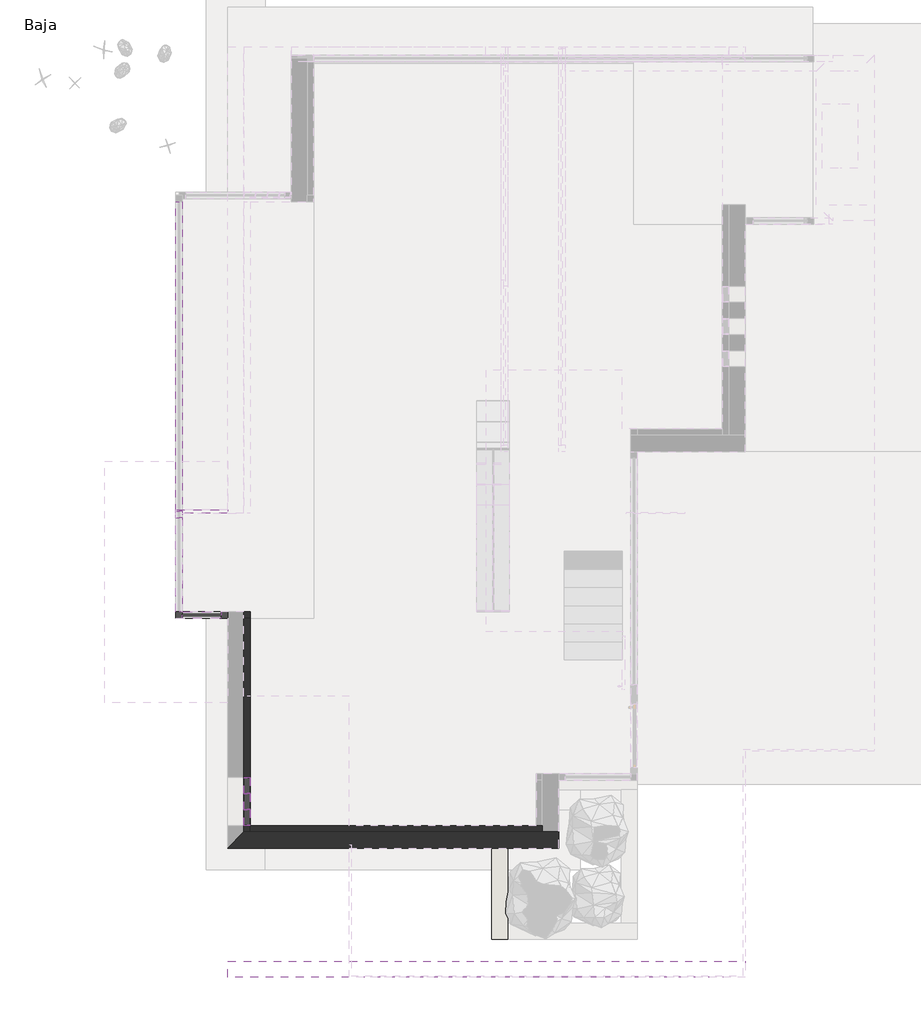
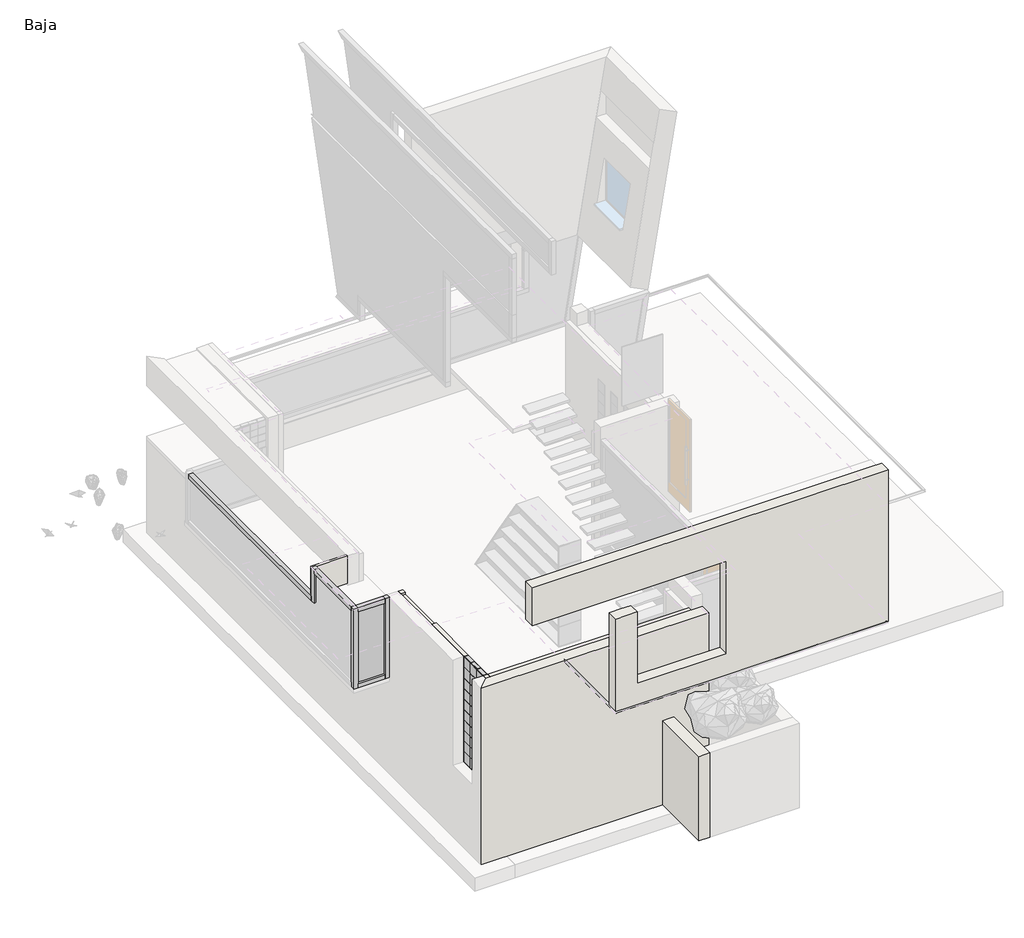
# One storey, part 1 of 7: 80 members, 31 plates, 7 walls.
"""IFC4 building model written with IfcOpenShell, lengths in millimetres."""

from ifc_helpers import new_model, si_unit, frame, origin, place, context, project, spatial, polyline, outline, extrude, faceted_brep, transform, mapped, element, save
from components import member_4f461d74, montante_rectangular_d5d69b61, montante_rectangular_8270ee6e, montante_rectangular_21ec1a72, montante_rectangular_2e25ec90, montante_rectangular_0f009ab3, montante_rectangular_17f9a402, montante_rectangular_e8e7f79d, montante_rectangular_223da8a3, montante_rectangular_ca48c89f, montante_rectangular_montante_rectangular_10_x_10_cm_55ccf2b4, montante_rectangular_montante_rectangular_10_x_10_cm_ffe52684, montante_rectangular_montante_rectangular_10_x_10_cm_fdee114b, montante_rectangular_montante_rectangular_10_x_10_cm_1dd9ad85, montante_rectangular_montante_rectangular_10_x_10_cm_b34eec0c, montante_rectangular_montante_rectangular_10_x_10_cm_8fd7b287, panel_de_sistema_6b14c2df, panel_de_sistema_1f3cf019, panel_de_sistema_2d9dcff1, panel_de_sistema_56062982, panel_de_sistema_acristalado_40b13092

model = new_model("IFC4")

# Units and contexts
model_context = context("Model", 3, world=origin())
ifc_project = project(units=[si_unit("LENGTHUNIT", "METRE", prefix="MILLI")], contexts=[model_context])

# Site, building, storey
site = spatial("IfcSite", under=ifc_project)
building = spatial("IfcBuilding", under=site)
storey = spatial("IfcBuildingStorey", under=building, Name="Baja", Elevation=0.0)

# Members
placement = place(None, origin())
member_shape = member_4f461d74(model_context)
element("IfcMember", 1, ObjectType="Montante angular cuadrilátero : Montante cuadrilátero 1", at=placement, inside=storey, context=model_context, shape_type="MappedRepresentation", body=[
    mapped(member_shape, transform((-4981.0601801, -6788.9241022, 2700.0), x_axis=(-1.0, 0.0, 0.0), y_axis=(0.0, -1.0, 0.0), z_axis=(0.0, 0.0, 1.0))),
])
montante_rectangular_shape = montante_rectangular_d5d69b61(model_context)
element("IfcMember", 2, ObjectType="Montante rectangular : Junta de paves", at=placement, inside=storey, context=model_context, shape_type="MappedRepresentation", body=[
    mapped(montante_rectangular_shape, transform((-3931.0601801, -9297.6669037, 200.0), x_axis=(0.0, 1.0, 0.0), y_axis=(1.0, 0.0, 0.0), z_axis=(0.0, 0.0, -1.0))),
])
element("IfcMember", 3, ObjectType="Montante rectangular : Junta de paves", at=placement, inside=storey, context=model_context, shape_type="MappedRepresentation", body=[
    mapped(montante_rectangular_shape, transform((-3931.0601801, -9297.6669037, 450.0), x_axis=(0.0, 1.0, 0.0), y_axis=(1.0, 0.0, 0.0), z_axis=(0.0, 0.0, -1.0))),
])
element("IfcMember", 4, ObjectType="Montante rectangular : Junta de paves", at=placement, inside=storey, context=model_context, shape_type="MappedRepresentation", body=[
    mapped(montante_rectangular_shape, transform((-3931.0601801, -9297.6669037, 700.0), x_axis=(0.0, 1.0, 0.0), y_axis=(1.0, 0.0, 0.0), z_axis=(0.0, 0.0, -1.0))),
])
element("IfcMember", 5, ObjectType="Montante rectangular : Junta de paves", at=placement, inside=storey, context=model_context, shape_type="MappedRepresentation", body=[
    mapped(montante_rectangular_shape, transform((-3931.0601801, -9297.6669037, 950.0), x_axis=(0.0, 1.0, 0.0), y_axis=(1.0, 0.0, 0.0), z_axis=(0.0, 0.0, -1.0))),
])
element("IfcMember", 6, ObjectType="Montante rectangular : Junta de paves", at=placement, inside=storey, context=model_context, shape_type="MappedRepresentation", body=[
    mapped(montante_rectangular_shape, transform((-3931.0601801, -9297.6669037, 1200.0), x_axis=(0.0, 1.0, 0.0), y_axis=(1.0, 0.0, 0.0), z_axis=(0.0, 0.0, -1.0))),
])
element("IfcMember", 7, ObjectType="Montante rectangular : Junta de paves", at=placement, inside=storey, context=model_context, shape_type="MappedRepresentation", body=[
    mapped(montante_rectangular_shape, transform((-3931.0601801, -9297.6669037, 1450.0), x_axis=(0.0, 1.0, 0.0), y_axis=(1.0, 0.0, 0.0), z_axis=(0.0, 0.0, -1.0))),
])
element("IfcMember", 8, ObjectType="Montante rectangular : Junta de paves", at=placement, inside=storey, context=model_context, shape_type="MappedRepresentation", body=[
    mapped(montante_rectangular_shape, transform((-3931.0601801, -9297.6669037, 1700.0), x_axis=(0.0, 1.0, 0.0), y_axis=(1.0, 0.0, 0.0), z_axis=(0.0, 0.0, -1.0))),
])
element("IfcMember", 9, ObjectType="Montante rectangular : Junta de paves", at=placement, inside=storey, context=model_context, shape_type="MappedRepresentation", body=[
    mapped(montante_rectangular_shape, transform((-3931.0601801, -9297.6669037, 1950.0), x_axis=(0.0, 1.0, 0.0), y_axis=(1.0, 0.0, 0.0), z_axis=(0.0, 0.0, -1.0))),
])
element("IfcMember", 10, ObjectType="Montante rectangular : Junta de paves", at=placement, inside=storey, context=model_context, shape_type="MappedRepresentation", body=[
    mapped(montante_rectangular_shape, transform((-3931.0601801, -9297.6669037, 2200.0), x_axis=(0.0, 1.0, 0.0), y_axis=(1.0, 0.0, 0.0), z_axis=(0.0, 0.0, -1.0))),
])
element("IfcMember", 11, ObjectType="Montante rectangular : Junta de paves", at=placement, inside=storey, context=model_context, shape_type="MappedRepresentation", body=[
    mapped(montante_rectangular_shape, transform((-3931.0601801, -9297.6669037, 2450.0), x_axis=(0.0, 1.0, 0.0), y_axis=(1.0, 0.0, 0.0), z_axis=(0.0, 0.0, -1.0))),
])
montante_rectangular_2_shape = montante_rectangular_8270ee6e(model_context)
element("IfcMember", 12, ObjectType="Montante rectangular : Junta de paves", at=placement, inside=storey, context=model_context, shape_type="MappedRepresentation", body=[
    mapped(montante_rectangular_2_shape, transform((-3931.0601801, -10047.6669037, 2700.0), x_axis=(0.0, -1.0, 0.0), y_axis=(1.0, 0.0, 0.0), z_axis=(0.0, 0.0, 1.0))),
])
element("IfcMember", 13, ObjectType="Montante rectangular : Junta de paves", at=placement, inside=storey, context=model_context, shape_type="MappedRepresentation", body=[
    mapped(montante_rectangular_2_shape, transform((-3931.0601801, -10047.6669037, 450.0), x_axis=(0.0, -1.0, 0.0), y_axis=(1.0, 0.0, 0.0), z_axis=(0.0, 0.0, 1.0))),
])
element("IfcMember", 14, ObjectType="Montante rectangular : Junta de paves", at=placement, inside=storey, context=model_context, shape_type="MappedRepresentation", body=[
    mapped(montante_rectangular_2_shape, transform((-3931.0601801, -10047.6669037, 700.0), x_axis=(0.0, -1.0, 0.0), y_axis=(1.0, 0.0, 0.0), z_axis=(0.0, 0.0, 1.0))),
])
element("IfcMember", 15, ObjectType="Montante rectangular : Junta de paves", at=placement, inside=storey, context=model_context, shape_type="MappedRepresentation", body=[
    mapped(montante_rectangular_2_shape, transform((-3931.0601801, -10047.6669037, 950.0), x_axis=(0.0, -1.0, 0.0), y_axis=(1.0, 0.0, 0.0), z_axis=(0.0, 0.0, 1.0))),
])
element("IfcMember", 16, ObjectType="Montante rectangular : Junta de paves", at=placement, inside=storey, context=model_context, shape_type="MappedRepresentation", body=[
    mapped(montante_rectangular_2_shape, transform((-3931.0601801, -10047.6669037, 1200.0), x_axis=(0.0, -1.0, 0.0), y_axis=(1.0, 0.0, 0.0), z_axis=(0.0, 0.0, 1.0))),
])
element("IfcMember", 17, ObjectType="Montante rectangular : Junta de paves", at=placement, inside=storey, context=model_context, shape_type="MappedRepresentation", body=[
    mapped(montante_rectangular_2_shape, transform((-3931.0601801, -10047.6669037, 1450.0), x_axis=(0.0, -1.0, 0.0), y_axis=(1.0, 0.0, 0.0), z_axis=(0.0, 0.0, 1.0))),
])
element("IfcMember", 18, ObjectType="Montante rectangular : Junta de paves", at=placement, inside=storey, context=model_context, shape_type="MappedRepresentation", body=[
    mapped(montante_rectangular_2_shape, transform((-3931.0601801, -10047.6669037, 1700.0), x_axis=(0.0, -1.0, 0.0), y_axis=(1.0, 0.0, 0.0), z_axis=(0.0, 0.0, 1.0))),
])
element("IfcMember", 19, ObjectType="Montante rectangular : Junta de paves", at=placement, inside=storey, context=model_context, shape_type="MappedRepresentation", body=[
    mapped(montante_rectangular_2_shape, transform((-3931.0601801, -10047.6669037, 1950.0), x_axis=(0.0, -1.0, 0.0), y_axis=(1.0, 0.0, 0.0), z_axis=(0.0, 0.0, 1.0))),
])
element("IfcMember", 20, ObjectType="Montante rectangular : Junta de paves", at=placement, inside=storey, context=model_context, shape_type="MappedRepresentation", body=[
    mapped(montante_rectangular_2_shape, transform((-3931.0601801, -10047.6669037, 2200.0), x_axis=(0.0, -1.0, 0.0), y_axis=(1.0, 0.0, 0.0), z_axis=(0.0, 0.0, 1.0))),
])
element("IfcMember", 21, ObjectType="Montante rectangular : Junta de paves", at=placement, inside=storey, context=model_context, shape_type="MappedRepresentation", body=[
    mapped(montante_rectangular_2_shape, transform((-3931.0601801, -10047.6669037, 2450.0), x_axis=(0.0, -1.0, 0.0), y_axis=(1.0, 0.0, 0.0), z_axis=(0.0, 0.0, 1.0))),
])
montante_rectangular_3_shape = montante_rectangular_21ec1a72(model_context)
element("IfcMember", 22, ObjectType="Montante rectangular : Junta de paves", at=placement, inside=storey, context=model_context, shape_type="MappedRepresentation", body=[
    mapped(montante_rectangular_3_shape, transform((-3931.0601801, -9307.6669037, 2700.0), x_axis=(0.0, 0.0, 1.0), y_axis=(1.0, 0.0, 0.0), z_axis=(0.0, 1.0, 0.0))),
])
element("IfcMember", 23, ObjectType="Montante rectangular : Junta de paves", at=placement, inside=storey, context=model_context, shape_type="MappedRepresentation", body=[
    mapped(montante_rectangular_3_shape, transform((-3931.0601801, -9802.6669037, 2700.0), x_axis=(0.0, 0.0, 1.0), y_axis=(1.0, 0.0, 0.0), z_axis=(0.0, 1.0, 0.0))),
])
montante_rectangular_4_shape = montante_rectangular_2e25ec90(model_context)
element("IfcMember", 24, ObjectType="Montante rectangular : Junta de paves", at=placement, inside=storey, context=model_context, shape_type="MappedRepresentation", body=[
    mapped(montante_rectangular_4_shape, transform((-3931.0601801, -10037.6669037, 200.0), x_axis=(0.0, 0.0, -1.0), y_axis=(1.0, 0.0, 0.0), z_axis=(0.0, -1.0, 0.0))),
])
element("IfcMember", 25, ObjectType="Montante rectangular : Junta de paves", at=placement, inside=storey, context=model_context, shape_type="MappedRepresentation", body=[
    mapped(montante_rectangular_4_shape, transform((-3931.0601801, -9542.6669037, 200.0), x_axis=(0.0, 0.0, -1.0), y_axis=(1.0, 0.0, 0.0), z_axis=(0.0, -1.0, 0.0))),
])
montante_rectangular_5_shape = montante_rectangular_0f009ab3(model_context)
element("IfcMember", 26, ObjectType="Montante rectangular : Junta de paves", at=placement, inside=storey, context=model_context, shape_type="MappedRepresentation", body=[
    mapped(montante_rectangular_5_shape, transform((-3931.0601801, -9802.6669037, 450.0), x_axis=(0.0, 0.0, 1.0), y_axis=(1.0, 0.0, 0.0), z_axis=(0.0, 1.0, 0.0))),
])
element("IfcMember", 27, ObjectType="Montante rectangular : Junta de paves", at=placement, inside=storey, context=model_context, shape_type="MappedRepresentation", body=[
    mapped(montante_rectangular_5_shape, transform((-3931.0601801, -9802.6669037, 700.0), x_axis=(0.0, 0.0, 1.0), y_axis=(1.0, 0.0, 0.0), z_axis=(0.0, 1.0, 0.0))),
])
element("IfcMember", 28, ObjectType="Montante rectangular : Junta de paves", at=placement, inside=storey, context=model_context, shape_type="MappedRepresentation", body=[
    mapped(montante_rectangular_5_shape, transform((-3931.0601801, -9802.6669037, 950.0), x_axis=(0.0, 0.0, 1.0), y_axis=(1.0, 0.0, 0.0), z_axis=(0.0, 1.0, 0.0))),
])
element("IfcMember", 29, ObjectType="Montante rectangular : Junta de paves", at=placement, inside=storey, context=model_context, shape_type="MappedRepresentation", body=[
    mapped(montante_rectangular_5_shape, transform((-3931.0601801, -9802.6669037, 1200.0), x_axis=(0.0, 0.0, 1.0), y_axis=(1.0, 0.0, 0.0), z_axis=(0.0, 1.0, 0.0))),
])
element("IfcMember", 30, ObjectType="Montante rectangular : Junta de paves", at=placement, inside=storey, context=model_context, shape_type="MappedRepresentation", body=[
    mapped(montante_rectangular_5_shape, transform((-3931.0601801, -9802.6669037, 1450.0), x_axis=(0.0, 0.0, 1.0), y_axis=(1.0, 0.0, 0.0), z_axis=(0.0, 1.0, 0.0))),
])
element("IfcMember", 31, ObjectType="Montante rectangular : Junta de paves", at=placement, inside=storey, context=model_context, shape_type="MappedRepresentation", body=[
    mapped(montante_rectangular_5_shape, transform((-3931.0601801, -9802.6669037, 1700.0), x_axis=(0.0, 0.0, 1.0), y_axis=(1.0, 0.0, 0.0), z_axis=(0.0, 1.0, 0.0))),
])
element("IfcMember", 32, ObjectType="Montante rectangular : Junta de paves", at=placement, inside=storey, context=model_context, shape_type="MappedRepresentation", body=[
    mapped(montante_rectangular_5_shape, transform((-3931.0601801, -9802.6669037, 1950.0), x_axis=(0.0, 0.0, 1.0), y_axis=(1.0, 0.0, 0.0), z_axis=(0.0, 1.0, 0.0))),
])
element("IfcMember", 33, ObjectType="Montante rectangular : Junta de paves", at=placement, inside=storey, context=model_context, shape_type="MappedRepresentation", body=[
    mapped(montante_rectangular_5_shape, transform((-3931.0601801, -9307.6669037, 450.0), x_axis=(0.0, 0.0, 1.0), y_axis=(1.0, 0.0, 0.0), z_axis=(0.0, 1.0, 0.0))),
])
element("IfcMember", 34, ObjectType="Montante rectangular : Junta de paves", at=placement, inside=storey, context=model_context, shape_type="MappedRepresentation", body=[
    mapped(montante_rectangular_5_shape, transform((-3931.0601801, -9307.6669037, 700.0), x_axis=(0.0, 0.0, 1.0), y_axis=(1.0, 0.0, 0.0), z_axis=(0.0, 1.0, 0.0))),
])
element("IfcMember", 35, ObjectType="Montante rectangular : Junta de paves", at=placement, inside=storey, context=model_context, shape_type="MappedRepresentation", body=[
    mapped(montante_rectangular_5_shape, transform((-3931.0601801, -9307.6669037, 950.0), x_axis=(0.0, 0.0, 1.0), y_axis=(1.0, 0.0, 0.0), z_axis=(0.0, 1.0, 0.0))),
])
element("IfcMember", 36, ObjectType="Montante rectangular : Junta de paves", at=placement, inside=storey, context=model_context, shape_type="MappedRepresentation", body=[
    mapped(montante_rectangular_5_shape, transform((-3931.0601801, -9307.6669037, 1200.0), x_axis=(0.0, 0.0, 1.0), y_axis=(1.0, 0.0, 0.0), z_axis=(0.0, 1.0, 0.0))),
])
element("IfcMember", 37, ObjectType="Montante rectangular : Junta de paves", at=placement, inside=storey, context=model_context, shape_type="MappedRepresentation", body=[
    mapped(montante_rectangular_5_shape, transform((-3931.0601801, -9307.6669037, 1450.0), x_axis=(0.0, 0.0, 1.0), y_axis=(1.0, 0.0, 0.0), z_axis=(0.0, 1.0, 0.0))),
])
element("IfcMember", 38, ObjectType="Montante rectangular : Junta de paves", at=placement, inside=storey, context=model_context, shape_type="MappedRepresentation", body=[
    mapped(montante_rectangular_5_shape, transform((-3931.0601801, -9307.6669037, 1700.0), x_axis=(0.0, 0.0, 1.0), y_axis=(1.0, 0.0, 0.0), z_axis=(0.0, 1.0, 0.0))),
])
element("IfcMember", 39, ObjectType="Montante rectangular : Junta de paves", at=placement, inside=storey, context=model_context, shape_type="MappedRepresentation", body=[
    mapped(montante_rectangular_5_shape, transform((-3931.0601801, -9307.6669037, 1950.0), x_axis=(0.0, 0.0, 1.0), y_axis=(1.0, 0.0, 0.0), z_axis=(0.0, 1.0, 0.0))),
])
element("IfcMember", 40, ObjectType="Montante rectangular : Junta de paves", at=placement, inside=storey, context=model_context, shape_type="MappedRepresentation", body=[
    mapped(montante_rectangular_5_shape, transform((-3931.0601801, -9802.6669037, 2200.0), x_axis=(0.0, 0.0, 1.0), y_axis=(1.0, 0.0, 0.0), z_axis=(0.0, 1.0, 0.0))),
])
element("IfcMember", 41, ObjectType="Montante rectangular : Junta de paves", at=placement, inside=storey, context=model_context, shape_type="MappedRepresentation", body=[
    mapped(montante_rectangular_5_shape, transform((-3931.0601801, -9307.6669037, 2200.0), x_axis=(0.0, 0.0, 1.0), y_axis=(1.0, 0.0, 0.0), z_axis=(0.0, 1.0, 0.0))),
])
element("IfcMember", 42, ObjectType="Montante rectangular : Junta de paves", at=placement, inside=storey, context=model_context, shape_type="MappedRepresentation", body=[
    mapped(montante_rectangular_5_shape, transform((-3931.0601801, -9802.6669037, 2450.0), x_axis=(0.0, 0.0, 1.0), y_axis=(1.0, 0.0, 0.0), z_axis=(0.0, 1.0, 0.0))),
])
element("IfcMember", 43, ObjectType="Montante rectangular : Junta de paves", at=placement, inside=storey, context=model_context, shape_type="MappedRepresentation", body=[
    mapped(montante_rectangular_5_shape, transform((-3931.0601801, -9307.6669037, 2450.0), x_axis=(0.0, 0.0, 1.0), y_axis=(1.0, 0.0, 0.0), z_axis=(0.0, 1.0, 0.0))),
])
montante_rectangular_6_shape = montante_rectangular_17f9a402(model_context)
element("IfcMember", 44, ObjectType="Montante rectangular : Junta de paves", at=placement, inside=storey, context=model_context, shape_type="MappedRepresentation", body=[
    mapped(montante_rectangular_6_shape, transform((-3931.0601801, -9797.6669037, 200.0), x_axis=(0.0, 1.0, 0.0), y_axis=(1.0, 0.0, 0.0), z_axis=(0.0, 0.0, -1.0))),
])
element("IfcMember", 45, ObjectType="Montante rectangular : Junta de paves", at=placement, inside=storey, context=model_context, shape_type="MappedRepresentation", body=[
    mapped(montante_rectangular_6_shape, transform((-3931.0601801, -9547.6669037, 200.0), x_axis=(0.0, 1.0, 0.0), y_axis=(1.0, 0.0, 0.0), z_axis=(0.0, 0.0, -1.0))),
])
element("IfcMember", 46, ObjectType="Montante rectangular : Junta de paves", at=placement, inside=storey, context=model_context, shape_type="MappedRepresentation", body=[
    mapped(montante_rectangular_6_shape, transform((-3931.0601801, -9797.6669037, 450.0), x_axis=(0.0, 1.0, 0.0), y_axis=(1.0, 0.0, 0.0), z_axis=(0.0, 0.0, -1.0))),
])
element("IfcMember", 47, ObjectType="Montante rectangular : Junta de paves", at=placement, inside=storey, context=model_context, shape_type="MappedRepresentation", body=[
    mapped(montante_rectangular_6_shape, transform((-3931.0601801, -9797.6669037, 700.0), x_axis=(0.0, 1.0, 0.0), y_axis=(1.0, 0.0, 0.0), z_axis=(0.0, 0.0, -1.0))),
])
element("IfcMember", 48, ObjectType="Montante rectangular : Junta de paves", at=placement, inside=storey, context=model_context, shape_type="MappedRepresentation", body=[
    mapped(montante_rectangular_6_shape, transform((-3931.0601801, -9797.6669037, 950.0), x_axis=(0.0, 1.0, 0.0), y_axis=(1.0, 0.0, 0.0), z_axis=(0.0, 0.0, -1.0))),
])
element("IfcMember", 49, ObjectType="Montante rectangular : Junta de paves", at=placement, inside=storey, context=model_context, shape_type="MappedRepresentation", body=[
    mapped(montante_rectangular_6_shape, transform((-3931.0601801, -9797.6669037, 1200.0), x_axis=(0.0, 1.0, 0.0), y_axis=(1.0, 0.0, 0.0), z_axis=(0.0, 0.0, -1.0))),
])
element("IfcMember", 50, ObjectType="Montante rectangular : Junta de paves", at=placement, inside=storey, context=model_context, shape_type="MappedRepresentation", body=[
    mapped(montante_rectangular_6_shape, transform((-3931.0601801, -9797.6669037, 1450.0), x_axis=(0.0, 1.0, 0.0), y_axis=(1.0, 0.0, 0.0), z_axis=(0.0, 0.0, -1.0))),
])
element("IfcMember", 51, ObjectType="Montante rectangular : Junta de paves", at=placement, inside=storey, context=model_context, shape_type="MappedRepresentation", body=[
    mapped(montante_rectangular_6_shape, transform((-3931.0601801, -9797.6669037, 1700.0), x_axis=(0.0, 1.0, 0.0), y_axis=(1.0, 0.0, 0.0), z_axis=(0.0, 0.0, -1.0))),
])
element("IfcMember", 52, ObjectType="Montante rectangular : Junta de paves", at=placement, inside=storey, context=model_context, shape_type="MappedRepresentation", body=[
    mapped(montante_rectangular_6_shape, transform((-3931.0601801, -9797.6669037, 1950.0), x_axis=(0.0, 1.0, 0.0), y_axis=(1.0, 0.0, 0.0), z_axis=(0.0, 0.0, -1.0))),
])
element("IfcMember", 53, ObjectType="Montante rectangular : Junta de paves", at=placement, inside=storey, context=model_context, shape_type="MappedRepresentation", body=[
    mapped(montante_rectangular_6_shape, transform((-3931.0601801, -9547.6669037, 450.0), x_axis=(0.0, 1.0, 0.0), y_axis=(1.0, 0.0, 0.0), z_axis=(0.0, 0.0, -1.0))),
])
element("IfcMember", 54, ObjectType="Montante rectangular : Junta de paves", at=placement, inside=storey, context=model_context, shape_type="MappedRepresentation", body=[
    mapped(montante_rectangular_6_shape, transform((-3931.0601801, -9547.6669037, 700.0), x_axis=(0.0, 1.0, 0.0), y_axis=(1.0, 0.0, 0.0), z_axis=(0.0, 0.0, -1.0))),
])
element("IfcMember", 55, ObjectType="Montante rectangular : Junta de paves", at=placement, inside=storey, context=model_context, shape_type="MappedRepresentation", body=[
    mapped(montante_rectangular_6_shape, transform((-3931.0601801, -9547.6669037, 950.0), x_axis=(0.0, 1.0, 0.0), y_axis=(1.0, 0.0, 0.0), z_axis=(0.0, 0.0, -1.0))),
])
element("IfcMember", 56, ObjectType="Montante rectangular : Junta de paves", at=placement, inside=storey, context=model_context, shape_type="MappedRepresentation", body=[
    mapped(montante_rectangular_6_shape, transform((-3931.0601801, -9547.6669037, 1200.0), x_axis=(0.0, 1.0, 0.0), y_axis=(1.0, 0.0, 0.0), z_axis=(0.0, 0.0, -1.0))),
])
element("IfcMember", 57, ObjectType="Montante rectangular : Junta de paves", at=placement, inside=storey, context=model_context, shape_type="MappedRepresentation", body=[
    mapped(montante_rectangular_6_shape, transform((-3931.0601801, -9547.6669037, 1450.0), x_axis=(0.0, 1.0, 0.0), y_axis=(1.0, 0.0, 0.0), z_axis=(0.0, 0.0, -1.0))),
])
element("IfcMember", 58, ObjectType="Montante rectangular : Junta de paves", at=placement, inside=storey, context=model_context, shape_type="MappedRepresentation", body=[
    mapped(montante_rectangular_6_shape, transform((-3931.0601801, -9547.6669037, 1700.0), x_axis=(0.0, 1.0, 0.0), y_axis=(1.0, 0.0, 0.0), z_axis=(0.0, 0.0, -1.0))),
])
element("IfcMember", 59, ObjectType="Montante rectangular : Junta de paves", at=placement, inside=storey, context=model_context, shape_type="MappedRepresentation", body=[
    mapped(montante_rectangular_6_shape, transform((-3931.0601801, -9547.6669037, 1950.0), x_axis=(0.0, 1.0, 0.0), y_axis=(1.0, 0.0, 0.0), z_axis=(0.0, 0.0, -1.0))),
])
element("IfcMember", 60, ObjectType="Montante rectangular : Junta de paves", at=placement, inside=storey, context=model_context, shape_type="MappedRepresentation", body=[
    mapped(montante_rectangular_6_shape, transform((-3931.0601801, -9797.6669037, 2200.0), x_axis=(0.0, 1.0, 0.0), y_axis=(1.0, 0.0, 0.0), z_axis=(0.0, 0.0, -1.0))),
])
element("IfcMember", 61, ObjectType="Montante rectangular : Junta de paves", at=placement, inside=storey, context=model_context, shape_type="MappedRepresentation", body=[
    mapped(montante_rectangular_6_shape, transform((-3931.0601801, -9547.6669037, 2200.0), x_axis=(0.0, 1.0, 0.0), y_axis=(1.0, 0.0, 0.0), z_axis=(0.0, 0.0, -1.0))),
])
element("IfcMember", 62, ObjectType="Montante rectangular : Junta de paves", at=placement, inside=storey, context=model_context, shape_type="MappedRepresentation", body=[
    mapped(montante_rectangular_6_shape, transform((-3931.0601801, -9797.6669037, 2450.0), x_axis=(0.0, 1.0, 0.0), y_axis=(1.0, 0.0, 0.0), z_axis=(0.0, 0.0, -1.0))),
])
element("IfcMember", 63, ObjectType="Montante rectangular : Junta de paves", at=placement, inside=storey, context=model_context, shape_type="MappedRepresentation", body=[
    mapped(montante_rectangular_6_shape, transform((-3931.0601801, -9547.6669037, 2450.0), x_axis=(0.0, 1.0, 0.0), y_axis=(1.0, 0.0, 0.0), z_axis=(0.0, 0.0, -1.0))),
])
montante_rectangular_7_shape = montante_rectangular_e8e7f79d(model_context)
element("IfcMember", 64, ObjectType="Montante rectangular : Junta de paves", at=placement, inside=storey, context=model_context, shape_type="MappedRepresentation", body=[
    mapped(montante_rectangular_7_shape, transform((-3931.0601801, -9792.6669037, 200.0), x_axis=(0.0, 0.0, -1.0), y_axis=(1.0, 0.0, 0.0), z_axis=(0.0, -1.0, 0.0))),
])
montante_rectangular_8_shape = montante_rectangular_223da8a3(model_context)
element("IfcMember", 65, ObjectType="Montante rectangular : Junta de paves", at=placement, inside=storey, context=model_context, shape_type="MappedRepresentation", body=[
    mapped(montante_rectangular_8_shape, transform((-3931.0601801, -9552.6669037, 450.0), x_axis=(0.0, 0.0, 1.0), y_axis=(1.0, 0.0, 0.0), z_axis=(0.0, 1.0, 0.0))),
])
element("IfcMember", 66, ObjectType="Montante rectangular : Junta de paves", at=placement, inside=storey, context=model_context, shape_type="MappedRepresentation", body=[
    mapped(montante_rectangular_8_shape, transform((-3931.0601801, -9552.6669037, 700.0), x_axis=(0.0, 0.0, 1.0), y_axis=(1.0, 0.0, 0.0), z_axis=(0.0, 1.0, 0.0))),
])
element("IfcMember", 67, ObjectType="Montante rectangular : Junta de paves", at=placement, inside=storey, context=model_context, shape_type="MappedRepresentation", body=[
    mapped(montante_rectangular_8_shape, transform((-3931.0601801, -9552.6669037, 950.0), x_axis=(0.0, 0.0, 1.0), y_axis=(1.0, 0.0, 0.0), z_axis=(0.0, 1.0, 0.0))),
])
element("IfcMember", 68, ObjectType="Montante rectangular : Junta de paves", at=placement, inside=storey, context=model_context, shape_type="MappedRepresentation", body=[
    mapped(montante_rectangular_8_shape, transform((-3931.0601801, -9552.6669037, 1200.0), x_axis=(0.0, 0.0, 1.0), y_axis=(1.0, 0.0, 0.0), z_axis=(0.0, 1.0, 0.0))),
])
element("IfcMember", 69, ObjectType="Montante rectangular : Junta de paves", at=placement, inside=storey, context=model_context, shape_type="MappedRepresentation", body=[
    mapped(montante_rectangular_8_shape, transform((-3931.0601801, -9552.6669037, 1450.0), x_axis=(0.0, 0.0, 1.0), y_axis=(1.0, 0.0, 0.0), z_axis=(0.0, 1.0, 0.0))),
])
element("IfcMember", 70, ObjectType="Montante rectangular : Junta de paves", at=placement, inside=storey, context=model_context, shape_type="MappedRepresentation", body=[
    mapped(montante_rectangular_8_shape, transform((-3931.0601801, -9552.6669037, 1700.0), x_axis=(0.0, 0.0, 1.0), y_axis=(1.0, 0.0, 0.0), z_axis=(0.0, 1.0, 0.0))),
])
element("IfcMember", 71, ObjectType="Montante rectangular : Junta de paves", at=placement, inside=storey, context=model_context, shape_type="MappedRepresentation", body=[
    mapped(montante_rectangular_8_shape, transform((-3931.0601801, -9552.6669037, 1950.0), x_axis=(0.0, 0.0, 1.0), y_axis=(1.0, 0.0, 0.0), z_axis=(0.0, 1.0, 0.0))),
])
element("IfcMember", 72, ObjectType="Montante rectangular : Junta de paves", at=placement, inside=storey, context=model_context, shape_type="MappedRepresentation", body=[
    mapped(montante_rectangular_8_shape, transform((-3931.0601801, -9552.6669037, 2200.0), x_axis=(0.0, 0.0, 1.0), y_axis=(1.0, 0.0, 0.0), z_axis=(0.0, 1.0, 0.0))),
])
element("IfcMember", 73, ObjectType="Montante rectangular : Junta de paves", at=placement, inside=storey, context=model_context, shape_type="MappedRepresentation", body=[
    mapped(montante_rectangular_8_shape, transform((-3931.0601801, -9552.6669037, 2450.0), x_axis=(0.0, 0.0, 1.0), y_axis=(1.0, 0.0, 0.0), z_axis=(0.0, 1.0, 0.0))),
])
montante_rectangular_9_shape = montante_rectangular_ca48c89f(model_context)
element("IfcMember", 74, ObjectType="Montante rectangular : Junta de paves", at=placement, inside=storey, context=model_context, shape_type="MappedRepresentation", body=[
    mapped(montante_rectangular_9_shape, transform((-3931.0601801, -9552.6669037, 2700.0), x_axis=(0.0, 0.0, 1.0), y_axis=(1.0, 0.0, 0.0), z_axis=(0.0, 1.0, 0.0))),
])
montante_rectangular_montante_rectangular_10_x_10_cm_shape = montante_rectangular_montante_rectangular_10_x_10_cm_55ccf2b4(model_context)
element("IfcMember", 75, ObjectType="Montante rectangular : Montante rectangular - 10 x 10 cm", at=placement, inside=storey, context=model_context, shape_type="MappedRepresentation", body=[
    mapped(montante_rectangular_montante_rectangular_10_x_10_cm_shape, transform((-4931.0601801, -6788.9241022, 800.0), x_axis=(0.0, 0.0, -1.0), y_axis=(0.0, -1.0, 0.0), z_axis=(-1.0, 0.0, 0.0))),
])
montante_rectangular_montante_rectangular_10_x_10_cm_2_shape = montante_rectangular_montante_rectangular_10_x_10_cm_ffe52684(model_context)
element("IfcMember", 76, ObjectType="Montante rectangular : Montante rectangular - 10 x 10 cm", at=placement, inside=storey, context=model_context, shape_type="MappedRepresentation", body=[
    mapped(montante_rectangular_montante_rectangular_10_x_10_cm_2_shape, transform((-4981.0601801, -5187.6669037, 2000.0), x_axis=(0.0, 0.0, 1.0), y_axis=(-1.0, 0.0, 0.0), z_axis=(0.0, -1.0, 0.0))),
])
montante_rectangular_montante_rectangular_10_x_10_cm_3_shape = montante_rectangular_montante_rectangular_10_x_10_cm_fdee114b(model_context)
element("IfcMember", 77, ObjectType="Montante rectangular : Montante rectangular - 10 x 10 cm", at=placement, inside=storey, context=model_context, shape_type="MappedRepresentation", body=[
    mapped(montante_rectangular_montante_rectangular_10_x_10_cm_3_shape, transform((-4981.0601801, -6738.9241022, 2700.0), x_axis=(0.0, 0.0, 1.0), y_axis=(-1.0, 0.0, 0.0), z_axis=(0.0, -1.0, 0.0))),
])
montante_rectangular_montante_rectangular_10_x_10_cm_4_shape = montante_rectangular_montante_rectangular_10_x_10_cm_1dd9ad85(model_context)
element("IfcMember", 78, ObjectType="Montante rectangular : Montante rectangular - 10 x 10 cm", at=placement, inside=storey, context=model_context, shape_type="MappedRepresentation", body=[
    mapped(montante_rectangular_montante_rectangular_10_x_10_cm_4_shape, transform((-4331.0601801, -6788.9241022, 2700.0), x_axis=(0.0, 0.0, 1.0), y_axis=(0.0, -1.0, 0.0), z_axis=(1.0, 0.0, 0.0))),
])
montante_rectangular_montante_rectangular_10_x_10_cm_5_shape = montante_rectangular_montante_rectangular_10_x_10_cm_b34eec0c(model_context)
element("IfcMember", 79, ObjectType="Montante rectangular : Montante rectangular - 10 x 10 cm", at=placement, inside=storey, context=model_context, shape_type="MappedRepresentation", body=[
    mapped(montante_rectangular_montante_rectangular_10_x_10_cm_5_shape, transform((-4981.0601801, -5187.6669037, 2700.0), x_axis=(0.0, 1.0, 0.0), y_axis=(-1.0, 0.0, 0.0), z_axis=(0.0, 0.0, 1.0))),
])
montante_rectangular_montante_rectangular_10_x_10_cm_6_shape = montante_rectangular_montante_rectangular_10_x_10_cm_8fd7b287(model_context)
element("IfcMember", 80, ObjectType="Montante rectangular : Montante rectangular - 10 x 10 cm", at=placement, inside=storey, context=model_context, shape_type="MappedRepresentation", body=[
    mapped(montante_rectangular_montante_rectangular_10_x_10_cm_6_shape, transform((-4231.0601801, -6788.9241022, 800.0), x_axis=(1.0, 0.0, 0.0), y_axis=(0.0, -1.0, 0.0), z_axis=(0.0, 0.0, -1.0))),
])

# Plates
panel_de_sistema_shape = panel_de_sistema_6b14c2df(model_context)
element("IfcPlate", 81, ObjectType="Panel de sistema : PAVES", at=placement, inside=storey, context=model_context, shape_type="MappedRepresentation", body=[
    mapped(panel_de_sistema_shape, transform((-3931.0601801, -9920.1669037, 210.0), x_axis=(0.0, 1.0, 0.0), y_axis=(-1.0, 0.0, 0.0), z_axis=(0.0, 0.0, 1.0))),
])
element("IfcPlate", 82, ObjectType="Panel de sistema : PAVES", at=placement, inside=storey, context=model_context, shape_type="MappedRepresentation", body=[
    mapped(panel_de_sistema_shape, transform((-3931.0601801, -9425.1669037, 210.0), x_axis=(0.0, 1.0, 0.0), y_axis=(-1.0, 0.0, 0.0), z_axis=(0.0, 0.0, 1.0))),
])
element("IfcPlate", 83, ObjectType="Panel de sistema : PAVES", at=placement, inside=storey, context=model_context, shape_type="MappedRepresentation", body=[
    mapped(panel_de_sistema_shape, transform((-3931.0601801, -9920.1669037, 2455.0), x_axis=(0.0, 1.0, 0.0), y_axis=(-1.0, 0.0, 0.0), z_axis=(0.0, 0.0, 1.0))),
])
element("IfcPlate", 84, ObjectType="Panel de sistema : PAVES", at=placement, inside=storey, context=model_context, shape_type="MappedRepresentation", body=[
    mapped(panel_de_sistema_shape, transform((-3931.0601801, -9425.1669037, 2455.0), x_axis=(0.0, 1.0, 0.0), y_axis=(-1.0, 0.0, 0.0), z_axis=(0.0, 0.0, 1.0))),
])
panel_de_sistema_2_shape = panel_de_sistema_1f3cf019(model_context)
element("IfcPlate", 85, ObjectType="Panel de sistema : PAVES", at=placement, inside=storey, context=model_context, shape_type="MappedRepresentation", body=[
    mapped(panel_de_sistema_2_shape, transform((-3931.0601801, -9920.1669037, 455.0), x_axis=(0.0, 1.0, 0.0), y_axis=(-1.0, 0.0, 0.0), z_axis=(0.0, 0.0, 1.0))),
])
element("IfcPlate", 86, ObjectType="Panel de sistema : PAVES", at=placement, inside=storey, context=model_context, shape_type="MappedRepresentation", body=[
    mapped(panel_de_sistema_2_shape, transform((-3931.0601801, -9920.1669037, 705.0), x_axis=(0.0, 1.0, 0.0), y_axis=(-1.0, 0.0, 0.0), z_axis=(0.0, 0.0, 1.0))),
])
element("IfcPlate", 87, ObjectType="Panel de sistema : PAVES", at=placement, inside=storey, context=model_context, shape_type="MappedRepresentation", body=[
    mapped(panel_de_sistema_2_shape, transform((-3931.0601801, -9920.1669037, 955.0), x_axis=(0.0, 1.0, 0.0), y_axis=(-1.0, 0.0, 0.0), z_axis=(0.0, 0.0, 1.0))),
])
element("IfcPlate", 88, ObjectType="Panel de sistema : PAVES", at=placement, inside=storey, context=model_context, shape_type="MappedRepresentation", body=[
    mapped(panel_de_sistema_2_shape, transform((-3931.0601801, -9920.1669037, 1205.0), x_axis=(0.0, 1.0, 0.0), y_axis=(-1.0, 0.0, 0.0), z_axis=(0.0, 0.0, 1.0))),
])
element("IfcPlate", 89, ObjectType="Panel de sistema : PAVES", at=placement, inside=storey, context=model_context, shape_type="MappedRepresentation", body=[
    mapped(panel_de_sistema_2_shape, transform((-3931.0601801, -9920.1669037, 1455.0), x_axis=(0.0, 1.0, 0.0), y_axis=(-1.0, 0.0, 0.0), z_axis=(0.0, 0.0, 1.0))),
])
element("IfcPlate", 90, ObjectType="Panel de sistema : PAVES", at=placement, inside=storey, context=model_context, shape_type="MappedRepresentation", body=[
    mapped(panel_de_sistema_2_shape, transform((-3931.0601801, -9920.1669037, 1705.0), x_axis=(0.0, 1.0, 0.0), y_axis=(-1.0, 0.0, 0.0), z_axis=(0.0, 0.0, 1.0))),
])
element("IfcPlate", 91, ObjectType="Panel de sistema : PAVES", at=placement, inside=storey, context=model_context, shape_type="MappedRepresentation", body=[
    mapped(panel_de_sistema_2_shape, transform((-3931.0601801, -9920.1669037, 1955.0), x_axis=(0.0, 1.0, 0.0), y_axis=(-1.0, 0.0, 0.0), z_axis=(0.0, 0.0, 1.0))),
])
element("IfcPlate", 92, ObjectType="Panel de sistema : PAVES", at=placement, inside=storey, context=model_context, shape_type="MappedRepresentation", body=[
    mapped(panel_de_sistema_2_shape, transform((-3931.0601801, -9425.1669037, 455.0), x_axis=(0.0, 1.0, 0.0), y_axis=(-1.0, 0.0, 0.0), z_axis=(0.0, 0.0, 1.0))),
])
element("IfcPlate", 93, ObjectType="Panel de sistema : PAVES", at=placement, inside=storey, context=model_context, shape_type="MappedRepresentation", body=[
    mapped(panel_de_sistema_2_shape, transform((-3931.0601801, -9425.1669037, 705.0), x_axis=(0.0, 1.0, 0.0), y_axis=(-1.0, 0.0, 0.0), z_axis=(0.0, 0.0, 1.0))),
])
element("IfcPlate", 94, ObjectType="Panel de sistema : PAVES", at=placement, inside=storey, context=model_context, shape_type="MappedRepresentation", body=[
    mapped(panel_de_sistema_2_shape, transform((-3931.0601801, -9425.1669037, 955.0), x_axis=(0.0, 1.0, 0.0), y_axis=(-1.0, 0.0, 0.0), z_axis=(0.0, 0.0, 1.0))),
])
element("IfcPlate", 95, ObjectType="Panel de sistema : PAVES", at=placement, inside=storey, context=model_context, shape_type="MappedRepresentation", body=[
    mapped(panel_de_sistema_2_shape, transform((-3931.0601801, -9425.1669037, 1205.0), x_axis=(0.0, 1.0, 0.0), y_axis=(-1.0, 0.0, 0.0), z_axis=(0.0, 0.0, 1.0))),
])
element("IfcPlate", 96, ObjectType="Panel de sistema : PAVES", at=placement, inside=storey, context=model_context, shape_type="MappedRepresentation", body=[
    mapped(panel_de_sistema_2_shape, transform((-3931.0601801, -9425.1669037, 1455.0), x_axis=(0.0, 1.0, 0.0), y_axis=(-1.0, 0.0, 0.0), z_axis=(0.0, 0.0, 1.0))),
])
element("IfcPlate", 97, ObjectType="Panel de sistema : PAVES", at=placement, inside=storey, context=model_context, shape_type="MappedRepresentation", body=[
    mapped(panel_de_sistema_2_shape, transform((-3931.0601801, -9425.1669037, 1705.0), x_axis=(0.0, 1.0, 0.0), y_axis=(-1.0, 0.0, 0.0), z_axis=(0.0, 0.0, 1.0))),
])
element("IfcPlate", 98, ObjectType="Panel de sistema : PAVES", at=placement, inside=storey, context=model_context, shape_type="MappedRepresentation", body=[
    mapped(panel_de_sistema_2_shape, transform((-3931.0601801, -9425.1669037, 1955.0), x_axis=(0.0, 1.0, 0.0), y_axis=(-1.0, 0.0, 0.0), z_axis=(0.0, 0.0, 1.0))),
])
element("IfcPlate", 99, ObjectType="Panel de sistema : PAVES", at=placement, inside=storey, context=model_context, shape_type="MappedRepresentation", body=[
    mapped(panel_de_sistema_2_shape, transform((-3931.0601801, -9920.1669037, 2205.0), x_axis=(0.0, 1.0, 0.0), y_axis=(-1.0, 0.0, 0.0), z_axis=(0.0, 0.0, 1.0))),
])
element("IfcPlate", 100, ObjectType="Panel de sistema : PAVES", at=placement, inside=storey, context=model_context, shape_type="MappedRepresentation", body=[
    mapped(panel_de_sistema_2_shape, transform((-3931.0601801, -9425.1669037, 2205.0), x_axis=(0.0, 1.0, 0.0), y_axis=(-1.0, 0.0, 0.0), z_axis=(0.0, 0.0, 1.0))),
])
panel_de_sistema_3_shape = panel_de_sistema_2d9dcff1(model_context)
element("IfcPlate", 101, ObjectType="Panel de sistema : PAVES", at=placement, inside=storey, context=model_context, shape_type="MappedRepresentation", body=[
    mapped(panel_de_sistema_3_shape, transform((-3931.0601801, -9672.6669037, 210.0), x_axis=(0.0, 1.0, 0.0), y_axis=(-1.0, 0.0, 0.0), z_axis=(0.0, 0.0, 1.0))),
])
element("IfcPlate", 102, ObjectType="Panel de sistema : PAVES", at=placement, inside=storey, context=model_context, shape_type="MappedRepresentation", body=[
    mapped(panel_de_sistema_3_shape, transform((-3931.0601801, -9672.6669037, 2455.0), x_axis=(0.0, 1.0, 0.0), y_axis=(-1.0, 0.0, 0.0), z_axis=(0.0, 0.0, 1.0))),
])
panel_de_sistema_4_shape = panel_de_sistema_56062982(model_context)
element("IfcPlate", 103, ObjectType="Panel de sistema : PAVES", at=placement, inside=storey, context=model_context, shape_type="MappedRepresentation", body=[
    mapped(panel_de_sistema_4_shape, transform((-3931.0601801, -9672.6669037, 455.0), x_axis=(0.0, 1.0, 0.0), y_axis=(-1.0, 0.0, 0.0), z_axis=(0.0, 0.0, 1.0))),
])
element("IfcPlate", 104, ObjectType="Panel de sistema : PAVES", at=placement, inside=storey, context=model_context, shape_type="MappedRepresentation", body=[
    mapped(panel_de_sistema_4_shape, transform((-3931.0601801, -9672.6669037, 705.0), x_axis=(0.0, 1.0, 0.0), y_axis=(-1.0, 0.0, 0.0), z_axis=(0.0, 0.0, 1.0))),
])
element("IfcPlate", 105, ObjectType="Panel de sistema : PAVES", at=placement, inside=storey, context=model_context, shape_type="MappedRepresentation", body=[
    mapped(panel_de_sistema_4_shape, transform((-3931.0601801, -9672.6669037, 955.0), x_axis=(0.0, 1.0, 0.0), y_axis=(-1.0, 0.0, 0.0), z_axis=(0.0, 0.0, 1.0))),
])
element("IfcPlate", 106, ObjectType="Panel de sistema : PAVES", at=placement, inside=storey, context=model_context, shape_type="MappedRepresentation", body=[
    mapped(panel_de_sistema_4_shape, transform((-3931.0601801, -9672.6669037, 1205.0), x_axis=(0.0, 1.0, 0.0), y_axis=(-1.0, 0.0, 0.0), z_axis=(0.0, 0.0, 1.0))),
])
element("IfcPlate", 107, ObjectType="Panel de sistema : PAVES", at=placement, inside=storey, context=model_context, shape_type="MappedRepresentation", body=[
    mapped(panel_de_sistema_4_shape, transform((-3931.0601801, -9672.6669037, 1455.0), x_axis=(0.0, 1.0, 0.0), y_axis=(-1.0, 0.0, 0.0), z_axis=(0.0, 0.0, 1.0))),
])
element("IfcPlate", 108, ObjectType="Panel de sistema : PAVES", at=placement, inside=storey, context=model_context, shape_type="MappedRepresentation", body=[
    mapped(panel_de_sistema_4_shape, transform((-3931.0601801, -9672.6669037, 1705.0), x_axis=(0.0, 1.0, 0.0), y_axis=(-1.0, 0.0, 0.0), z_axis=(0.0, 0.0, 1.0))),
])
element("IfcPlate", 109, ObjectType="Panel de sistema : PAVES", at=placement, inside=storey, context=model_context, shape_type="MappedRepresentation", body=[
    mapped(panel_de_sistema_4_shape, transform((-3931.0601801, -9672.6669037, 1955.0), x_axis=(0.0, 1.0, 0.0), y_axis=(-1.0, 0.0, 0.0), z_axis=(0.0, 0.0, 1.0))),
])
element("IfcPlate", 110, ObjectType="Panel de sistema : PAVES", at=placement, inside=storey, context=model_context, shape_type="MappedRepresentation", body=[
    mapped(panel_de_sistema_4_shape, transform((-3931.0601801, -9672.6669037, 2205.0), x_axis=(0.0, 1.0, 0.0), y_axis=(-1.0, 0.0, 0.0), z_axis=(0.0, 0.0, 1.0))),
])
panel_de_sistema_acristalado_shape = panel_de_sistema_acristalado_40b13092(model_context)
element("IfcPlate", 111, ObjectType="Panel de sistema : Acristalado", at=placement, inside=storey, context=model_context, shape_type="MappedRepresentation", body=[
    mapped(panel_de_sistema_acristalado_shape, transform((-4631.0601801, -6788.9241022, 900.0), x_axis=(1.0, 0.0, 0.0), y_axis=(0.0, 1.0, 0.0), z_axis=(0.0, 0.0, 1.0))),
])

# Walls
element("IfcWall", 112, ObjectType="Hormigón - 25 cm", at=placement, inside=storey, context=model_context, shape_type="Brep", body=[
    faceted_brep([(886.8974058, -10392.6669037, -1500.0), (886.8974058, -10392.6669037, 2700.0), (-4231.0601801, -10392.6669037, 2700.0), (-4231.0601801, -10392.6669037, -1500.0), (-148.3987442, -10392.6669037, -1500.0), (101.6012558, -10392.6669037, -1500.0), (886.8974058, -10142.6669037, -1500.0), (636.8974058, -10142.6669037, -1500.0), (-3981.0601801, -10142.6669037, -1500.0), (-3981.0601801, -10142.6669037, 2700.0), (886.8974058, -10142.6669037, 2700.0)], [[[0, 1, 2, 3, 4, 5]], [[6, 7, 8, 9, 10]], [[2, 1, 10, 9]], [[0, 5, 4, 3, 8, 7, 6]], [[1, 0, 6, 10]], [[3, 2, 9, 8]]]),
])
element("IfcWall", 113, ObjectType="Hormigón - 25 cm", at=placement, inside=storey, context=model_context, shape_type="Brep", body=[
    faceted_brep([(-1869.7977517, -12392.6669037, 4896.166704), (-2353.1025942, -12392.6669037, 4896.166704), (-2353.1025942, -12392.6669037, 2700.0), (3768.9398199, -12392.6669037, 2700.0), (3768.9398199, -12392.6669037, 6300.0), (-4231.0601801, -12392.6669037, 6300.0), (-4231.0601801, -12392.6669037, 5396.166704), (130.2022483, -12392.6669037, 5396.166704), (130.2022483, -12392.6669037, 3200.0), (-1869.7977517, -12392.6669037, 3200.0), (-1869.7977517, -12142.6669037, 4896.166704), (-1869.7977517, -12142.6669037, 3200.0), (130.2022483, -12142.6669037, 3200.0), (130.2022483, -12142.6669037, 5396.166704), (-3981.0601801, -12142.6669037, 5396.166704), (-4231.0601801, -12142.6669037, 5396.166704), (-4231.0601801, -12142.6669037, 6300.0), (-3981.0601801, -12142.6669037, 6300.0), (3518.9398199, -12142.6669037, 6300.0), (3768.9398199, -12142.6669037, 6300.0), (3768.9398199, -12142.6669037, 2700.0), (3518.9398199, -12142.6669037, 2700.0), (-2103.1025942, -12142.6669037, 2700.0), (-2353.1025942, -12142.6669037, 2700.0), (-2353.1025942, -12142.6669037, 4896.166704), (-2103.1025942, -12142.6669037, 4896.166704)], [[[0, 1, 2, 3, 4, 5, 6, 7, 8, 9]], [[10, 11, 12, 13, 14, 15, 16, 17, 18, 19, 20, 21, 22, 23, 24, 25]], [[1, 0, 10, 25, 24]], [[3, 2, 23, 22, 21, 20]], [[5, 4, 19, 18, 17, 16]], [[7, 6, 15, 14, 13]], [[8, 7, 13, 12]], [[9, 8, 12, 11]], [[0, 9, 11, 10]], [[6, 5, 16, 15]], [[2, 1, 24, 23]], [[4, 3, 20, 19]]]),
])
element("IfcWall", 114, ObjectType="Hormigón - 25", at=placement, inside=storey, context=model_context, shape_type="Brep", body=[
    faceted_brep([(-148.3987442, -10392.6669037, -1500.0), (-148.3987442, -11802.6669037, -1500.0), (-148.3987442, -11802.6669037, 500.0), (-148.3987442, -10392.6669037, 500.0), (101.6012558, -10392.6669037, -1500.0), (101.6012558, -10392.6669037, 500.0), (101.6012558, -11552.6669037, 500.0), (101.6012558, -11802.6669037, 500.0), (101.6012558, -11802.6669037, -1500.0), (101.6012558, -11552.6669037, -1500.0)], [[[0, 1, 2, 3]], [[4, 5, 6, 7, 8, 9]], [[1, 0, 4, 9, 8]], [[3, 2, 7, 6, 5]], [[2, 1, 8, 7]], [[0, 3, 5, 4]]]),
])
element("IfcWall", 115, ObjectType="Trasdosado de placa de yeso laminando", at=placement, inside=storey, context=model_context, shape_type="Brep", body=[
    faceted_brep([(-3981.0601801, -10147.6669037, 0.0), (-3981.0601801, -10147.6669037, 2700.0), (-3981.0601801, -10142.6669037, 2700.0), (-3981.0601801, -10047.6669037, 2700.0), (-3981.0601801, -10047.6669037, 200.0), (-3981.0601801, -9297.6669037, 200.0), (-3981.0601801, -9297.6669037, 2700.0), (-3981.0601801, -8042.6669037, 2700.0), (-3981.0601801, -8042.6669037, 2650.0), (-3981.0601801, -6838.9241022, 2650.0), (-3981.0601801, -6838.9241022, 800.0), (-3981.0601801, -6838.9241022, 100.0), (-3981.0601801, -10142.6669037, 100.0), (-3981.0601801, -10142.6669037, 0.0), (-3881.0601801, -10147.6669037, 2700.0), (-3881.0601801, -10147.6669037, 0.0), (-3881.0601801, -10142.6669037, 0.0), (-3881.0601801, -10142.6669037, 100.0), (-3881.0601801, -10047.6669037, 100.0), (-3881.0601801, -6838.9241022, 100.0), (-3881.0601801, -6838.9241022, 800.0), (-3881.0601801, -6838.9241022, 2650.0), (-3881.0601801, -8042.6669037, 2650.0), (-3881.0601801, -8042.6669037, 2700.0), (-3881.0601801, -9297.6669037, 2700.0), (-3881.0601801, -9297.6669037, 200.0), (-3881.0601801, -10047.6669037, 200.0), (-3881.0601801, -10047.6669037, 2700.0)], [[[0, 1, 2, 3, 4, 5, 6, 7, 8, 9, 10, 11, 12, 13]], [[14, 15, 16, 17, 18, 19, 20, 21, 22, 23, 24, 25, 26, 27]], [[15, 0, 13, 16]], [[1, 14, 27, 3, 2]], [[6, 24, 23, 7]], [[1, 0, 15, 14]], [[19, 11, 10, 9, 21, 20]], [[26, 4, 3, 27]], [[5, 25, 24, 6]], [[4, 26, 25, 5]], [[17, 12, 11, 19, 18]], [[12, 17, 16, 13]], [[8, 22, 21, 9]], [[22, 8, 7, 23]]]),
])
element("IfcWall", 116, ObjectType="Trasdosado de placa de yeso laminando", at=placement, inside=storey, context=model_context, shape_type="Brep", body=[
    faceted_brep([(-3881.0601801, -10147.6669037, 0.0), (636.8974058, -10147.6669037, 0.0), (636.8974058, -10147.6669037, 2700.0), (-3881.0601801, -10147.6669037, 2700.0), (-3881.0601801, -10047.6669037, 2700.0), (536.8974058, -10047.6669037, 2700.0), (636.8974058, -10047.6669037, 2700.0), (636.8974058, -10047.6669037, 100.0), (-3881.0601801, -10047.6669037, 100.0), (-3881.0601801, -10047.6669037, 200.0), (-3881.0601801, -10142.6669037, 0.0), (636.8974058, -10142.6669037, 0.0), (-3881.0601801, -10142.6669037, 100.0), (636.8974058, -10142.6669037, 100.0)], [[[0, 1, 2, 3]], [[4, 5, 6, 7, 8, 9]], [[1, 0, 10, 11]], [[3, 2, 6, 5, 4]], [[0, 3, 4, 9, 8, 12, 10]], [[2, 1, 11, 13, 7, 6]], [[13, 12, 8, 7]], [[12, 13, 11, 10]]]),
])
element("IfcWall", 117, ObjectType="Trasdosado de placa de yeso laminando", at=placement, inside=storey, context=model_context, shape_type="SweptSolid", body=[
    extrude(outline(polyline([(-3881.0601801, -6838.9241022), (-3981.0601801, -6838.9241022), (-3981.0601801, -6738.9241022), (-3881.0601801, -6738.9241022), (-3881.0601801, -6838.9241022)])), frame((0.0, 0.0, 800.0), z_axis=(0.0, 0.0, 1.0), x_axis=(1.0, 0.0, 0.0)), (0.0, 0.0, 1.0), 1900.0),
])
element("IfcWall", 118, ObjectType="Panel aluminio", at=placement, inside=storey, context=model_context, shape_type="SweptSolid", body=[
    extrude(outline(polyline([(-4231.0601801, -5212.6669037), (-5031.0601801, -5212.6669037), (-5031.0601801, -5162.6669037), (-4231.0601801, -5162.6669037), (-4231.0601801, -5212.6669037)])), frame((0.0, 0.0, 2050.0), z_axis=(0.0, 0.0, 1.0), x_axis=(1.0, 0.0, 0.0)), (0.0, 0.0, 1.0), 650.0),
])

save(model, "model.ifc")
